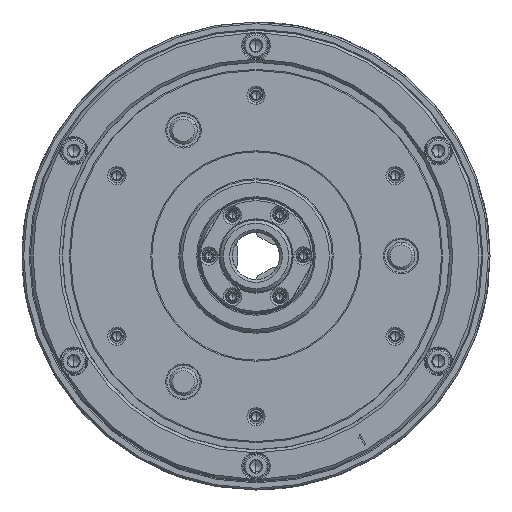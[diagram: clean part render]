
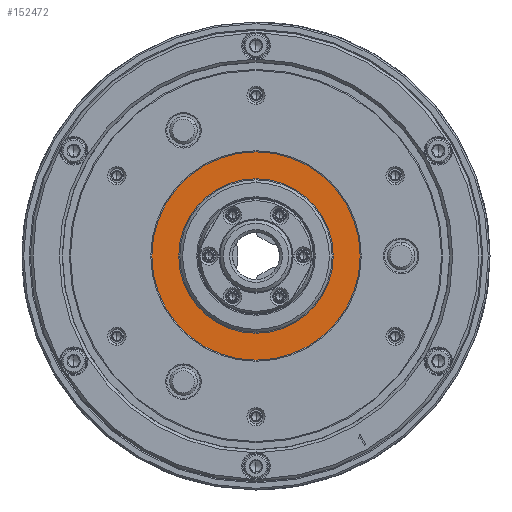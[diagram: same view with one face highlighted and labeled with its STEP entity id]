
A CAD part, left-side view. The second image highlights one B-rep face of the part: STEP entity #152472.
In plain terms, the highlighted planar face has unit normal (-1, 0, 0) as drawn and (0, 0, -1) by its records, which use the part's own axes.
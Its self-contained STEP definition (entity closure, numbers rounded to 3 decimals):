
#19027 = DIRECTION ( 'NONE',  ( 0., 0., 1. ) ) ;
#19678 = CIRCLE ( 'NONE', #119207, 27.9 ) ;
#30289 = CARTESIAN_POINT ( 'NONE',  ( 27.9, 0., -99.8 ) ) ;
#36326 = ORIENTED_EDGE ( 'NONE', *, *, #181364, .T. ) ;
#39991 = VERTEX_POINT ( 'NONE', #154917 ) ;
#42288 = PLANE ( 'NONE',  #130104 ) ;
#44476 = ORIENTED_EDGE ( 'NONE', *, *, #117759, .F. ) ;
#46393 = EDGE_CURVE ( 'NONE', #159907, #39991, #164730, .T. ) ;
#48620 = DIRECTION ( 'NONE',  ( 0., 0., 1. ) ) ;
#55928 = CARTESIAN_POINT ( 'NONE',  ( 0., 37.616, -99.8 ) ) ;
#61997 = CARTESIAN_POINT ( 'NONE',  ( 0., 0., -99.8 ) ) ;
#62940 = DIRECTION ( 'NONE',  ( 0., 0., 1. ) ) ;
#63626 = ORIENTED_EDGE ( 'NONE', *, *, #46393, .F. ) ;
#63921 = DIRECTION ( 'NONE',  ( 1., 0., 0. ) ) ;
#65125 = DIRECTION ( 'NONE',  ( 1., 0., 0. ) ) ;
#66010 = CARTESIAN_POINT ( 'NONE',  ( 37.616, 0., -99.8 ) ) ;
#68414 = AXIS2_PLACEMENT_3D ( 'NONE', #172311, #140205, #127505 ) ;
#75540 = CARTESIAN_POINT ( 'NONE',  ( 0., 0., -99.8 ) ) ;
#80923 = CIRCLE ( 'NONE', #152280, 37.616 ) ;
#86128 = FACE_OUTER_BOUND ( 'NONE', #98938, .T. ) ;
#88166 = CIRCLE ( 'NONE', #135116, 27.9 ) ;
#92364 = ORIENTED_EDGE ( 'NONE', *, *, #125362, .T. ) ;
#93132 = VERTEX_POINT ( 'NONE', #158860 ) ;
#95181 = EDGE_LOOP ( 'NONE', ( #36326, #92364 ) ) ;
#98938 = EDGE_LOOP ( 'NONE', ( #44476, #63626 ) ) ;
#105730 = DIRECTION ( 'NONE',  ( 1., 0., 0. ) ) ;
#107501 = VERTEX_POINT ( 'NONE', #30289 ) ;
#117759 = EDGE_CURVE ( 'NONE', #39991, #159907, #80923, .T. ) ;
#119133 = DIRECTION ( 'NONE',  ( 0., 0., -1. ) ) ;
#119207 = AXIS2_PLACEMENT_3D ( 'NONE', #61997, #62940, #63921 ) ;
#125362 = EDGE_CURVE ( 'NONE', #93132, #107501, #19678, .T. ) ;
#127505 = DIRECTION ( 'NONE',  ( 1., 0., 0. ) ) ;
#129929 = DIRECTION ( 'NONE',  ( -1., 0., 0. ) ) ;
#130104 = AXIS2_PLACEMENT_3D ( 'NONE', #55928, #119133, #129929 ) ;
#135116 = AXIS2_PLACEMENT_3D ( 'NONE', #75540, #19027, #105730 ) ;
#139127 = CARTESIAN_POINT ( 'NONE',  ( 0., 0., -99.8 ) ) ;
#140205 = DIRECTION ( 'NONE',  ( 0., 0., 1. ) ) ;
#152280 = AXIS2_PLACEMENT_3D ( 'NONE', #139127, #48620, #65125 ) ;
#152472 = ADVANCED_FACE ( 'NONE', ( #189348, #86128 ), #42288, .T. ) ;
#154917 = CARTESIAN_POINT ( 'NONE',  ( -37.616, 0., -99.8 ) ) ;
#158860 = CARTESIAN_POINT ( 'NONE',  ( -27.9, 0., -99.8 ) ) ;
#159907 = VERTEX_POINT ( 'NONE', #66010 ) ;
#164730 = CIRCLE ( 'NONE', #68414, 37.616 ) ;
#172311 = CARTESIAN_POINT ( 'NONE',  ( 0., 0., -99.8 ) ) ;
#181364 = EDGE_CURVE ( 'NONE', #107501, #93132, #88166, .T. ) ;
#189348 = FACE_BOUND ( 'NONE', #95181, .T. ) ;
